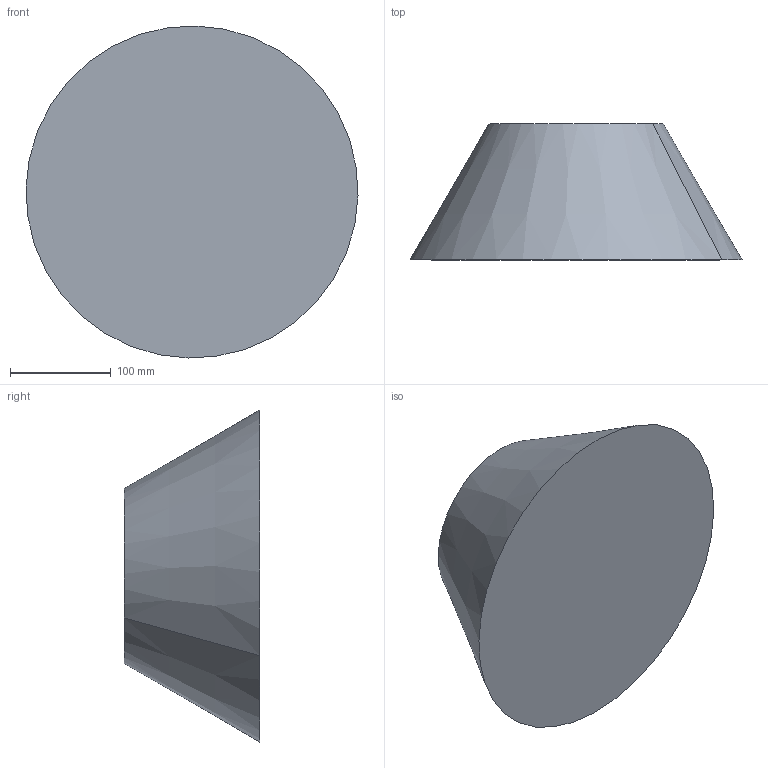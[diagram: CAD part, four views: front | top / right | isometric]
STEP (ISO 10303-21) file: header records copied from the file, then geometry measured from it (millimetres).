
FILE_DESCRIPTION(('CATIA V5 STEP Exchange'),'2;1');
FILE_NAME('C:\_Andres\UNIVERSIDAD\IQS\ASIGNATURAS\DAO\EXF\EXF-16172c\2inicio\Uria_Ciurana_Ej09_v35.stp','2017-03-05T22:13:16+00:00',('none'),('none'),'CATIA Version 5-6 Release 2014 SP1 HF18','CATIA V5 STEP AP203','none');
FILE_SCHEMA(('CONFIG_CONTROL_DESIGN'));
Length unit declared in the file: millimetre
Products named in the file (1): Uria_Ciurana_Ej09_v35
Bounding box: 329.91 x 135 x 329.91 mm (x, y, z)
Volume: 6943188.6 mm3; surface area: 234978.4 mm2
Topology: 1 solids, 2 shells, 8 faces, 12 edges, 8 vertices
Faces by surface type: plane 4, cone 2, cylinder 2
Entity records: 205 total; most frequent: CARTESIAN_POINT 27, DIRECTION 24, ORIENTED_EDGE 24, AXIS2_PLACEMENT_3D 15, EDGE_CURVE 12, ADVANCED_FACE 8, CIRCLE 8, EDGE_LOOP 8
